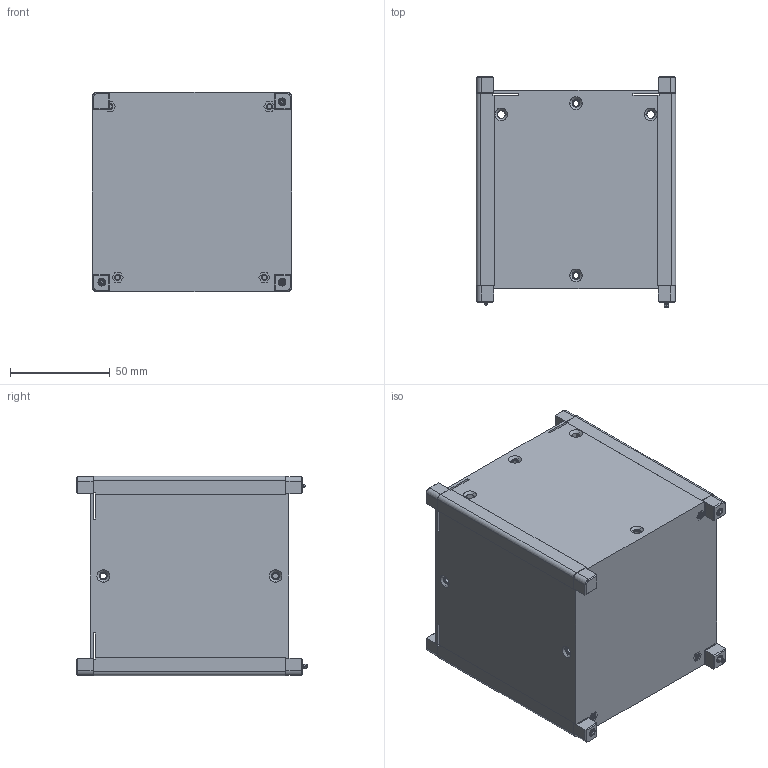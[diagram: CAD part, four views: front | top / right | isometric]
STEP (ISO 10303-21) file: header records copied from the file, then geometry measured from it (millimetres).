
FILE_DESCRIPTION (( 'STEP AP214' ), '1' );
FILE_NAME ('703-00243-E0 1U Chassis Solid.STEP', '2017-11-13T19:17:34', ( '' ), ( '' ), 'SwSTEP 2.0', 'SolidWorks 2014', '' );
FILE_SCHEMA (( 'AUTOMOTIVE_DESIGN' ));
Length unit declared in the file: inch
Products named in the file (2): 703-00243-E0 1U Chassis Solid
Bounding box: 100.06 x 116.05 x 100.05 mm (x, y, z)
Volume: 90122.5 mm3; surface area: 130843.1 mm2
Topology: 1 solids, 75 shells, 2130 faces, 5229 edges, 3173 vertices
Faces by surface type: cone 812, plane 694, cylinder 570, torus 22, bspline 16, sphere 16
Entity records: 65426 total; most frequent: DIRECTION 11709, CARTESIAN_POINT 11137, ORIENTED_EDGE 10450, EDGE_CURVE 5225, AXIS2_PLACEMENT_3D 4453, VERTEX_POINT 3173, LINE 2803, VECTOR 2803
